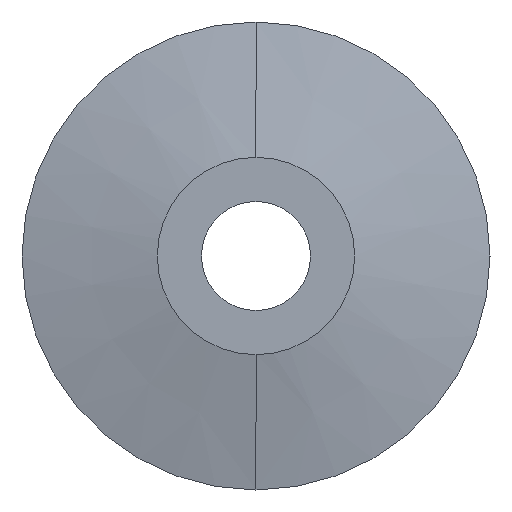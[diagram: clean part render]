
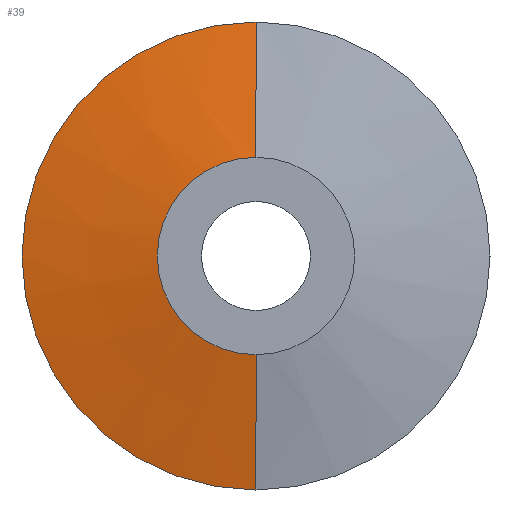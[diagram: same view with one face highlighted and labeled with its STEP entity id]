
A CAD part, left-side view. The second image highlights one B-rep face of the part: STEP entity #39.
In plain terms, the highlighted conical face has half-angle 78 degrees and reference radius 6.82 mm.
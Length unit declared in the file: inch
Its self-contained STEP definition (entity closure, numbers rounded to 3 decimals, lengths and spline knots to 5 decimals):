
#2 = DIRECTION ( 'NONE',  ( 0.208, 0., -0.978 ) ) ;
#11 = CARTESIAN_POINT ( 'NONE',  ( -0.89, 0., 0. ) ) ;
#39 = ADVANCED_FACE ( 'NONE', ( #115 ), #66, .T. ) ;
#40 = CARTESIAN_POINT ( 'NONE',  ( -0.89, 0., -0.2685 ) ) ;
#41 = ORIENTED_EDGE ( 'NONE', *, *, #117, .F. ) ;
#52 = DIRECTION ( 'NONE',  ( 0.208, 0., 0.978 ) ) ;
#60 = CARTESIAN_POINT ( 'NONE',  ( -0.923, 0., 0. ) ) ;
#66 = CONICAL_SURFACE ( 'NONE', #296, 0.2685, 1.361 ) ;
#82 = VERTEX_POINT ( 'NONE', #214 ) ;
#86 = VECTOR ( 'NONE', #2, 39.37008 ) ;
#87 = VERTEX_POINT ( 'NONE', #40 ) ;
#98 = ORIENTED_EDGE ( 'NONE', *, *, #415, .T. ) ;
#106 = ORIENTED_EDGE ( 'NONE', *, *, #210, .F. ) ;
#115 = FACE_OUTER_BOUND ( 'NONE', #257, .T. ) ;
#117 = EDGE_CURVE ( 'NONE', #388, #363, #359, .T. ) ;
#127 = LINE ( 'NONE', #205, #192 ) ;
#132 = ORIENTED_EDGE ( 'NONE', *, *, #422, .T. ) ;
#135 = AXIS2_PLACEMENT_3D ( 'NONE', #60, #174, #362 ) ;
#147 = AXIS2_PLACEMENT_3D ( 'NONE', #11, #163, #443 ) ;
#163 = DIRECTION ( 'NONE',  ( -1., 0., 0. ) ) ;
#174 = DIRECTION ( 'NONE',  ( -1., 0., 0. ) ) ;
#190 = CARTESIAN_POINT ( 'NONE',  ( -0.89, 0., -0.2685 ) ) ;
#192 = VECTOR ( 'NONE', #52, 39.37008 ) ;
#205 = CARTESIAN_POINT ( 'NONE',  ( -0.89, 0., 0.2685 ) ) ;
#210 = EDGE_CURVE ( 'NONE', #363, #87, #302, .T. ) ;
#214 = CARTESIAN_POINT ( 'NONE',  ( -0.89, 0., 0.2685 ) ) ;
#241 = CARTESIAN_POINT ( 'NONE',  ( -0.923, 0., -0.11325 ) ) ;
#257 = EDGE_LOOP ( 'NONE', ( #41, #98, #132, #106 ) ) ;
#265 = CARTESIAN_POINT ( 'NONE',  ( -0.89, 0., 0. ) ) ;
#278 = CARTESIAN_POINT ( 'NONE',  ( -0.923, 0., 0.11325 ) ) ;
#296 = AXIS2_PLACEMENT_3D ( 'NONE', #265, #400, #369 ) ;
#302 = LINE ( 'NONE', #190, #86 ) ;
#352 = CIRCLE ( 'NONE', #147, 0.2685 ) ;
#359 = CIRCLE ( 'NONE', #135, 0.11325 ) ;
#362 = DIRECTION ( 'NONE',  ( 0., 0., 1. ) ) ;
#363 = VERTEX_POINT ( 'NONE', #241 ) ;
#369 = DIRECTION ( 'NONE',  ( 0., 0., -1. ) ) ;
#388 = VERTEX_POINT ( 'NONE', #278 ) ;
#400 = DIRECTION ( 'NONE',  ( 1., 0., 0. ) ) ;
#415 = EDGE_CURVE ( 'NONE', #388, #82, #127, .T. ) ;
#422 = EDGE_CURVE ( 'NONE', #82, #87, #352, .T. ) ;
#443 = DIRECTION ( 'NONE',  ( 0., 0., 1. ) ) ;
